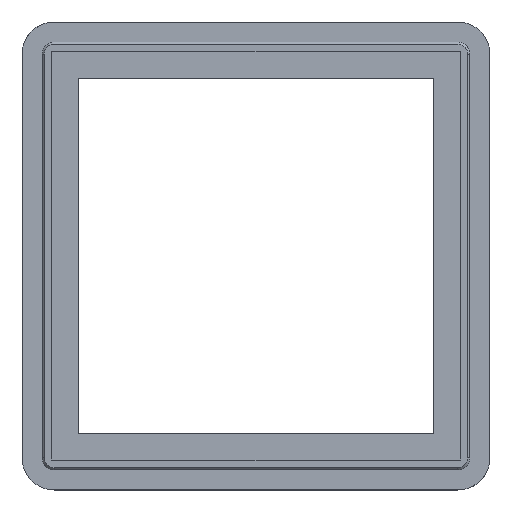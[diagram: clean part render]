
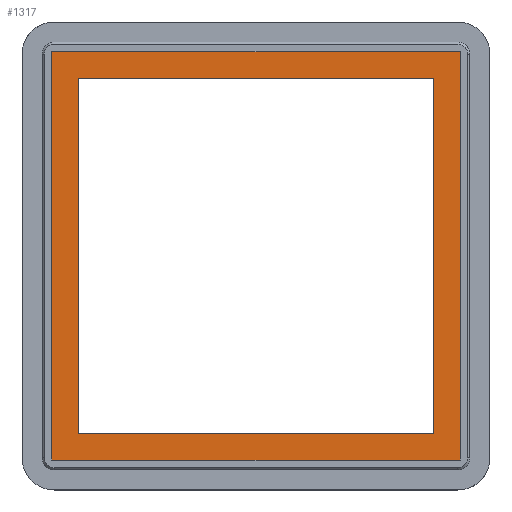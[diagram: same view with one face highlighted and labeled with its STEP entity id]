
A CAD part, top view. The second image highlights one B-rep face of the part: STEP entity #1317.
In plain terms, the highlighted free-form (B-spline) face has degree [1, 1] with [2, 2] control points.
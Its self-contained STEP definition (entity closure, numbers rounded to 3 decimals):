
#694 = VERTEX_POINT('',#695);
#695 = CARTESIAN_POINT('',(22.,-22.,8.2));
#702 = VERTEX_POINT('',#703);
#703 = CARTESIAN_POINT('',(-22.,-22.,8.2));
#708 = EDGE_CURVE('',#702,#694,#709,.T.);
#709 = B_SPLINE_CURVE_WITH_KNOTS('',1,(#710,#711),.UNSPECIFIED.,.F.,.F.,
  (2,2),(1.65,45.65),.PIECEWISE_BEZIER_KNOTS.);
#710 = CARTESIAN_POINT('',(-22.,-22.,8.2));
#711 = CARTESIAN_POINT('',(22.,-22.,8.2));
#724 = VERTEX_POINT('',#725);
#725 = CARTESIAN_POINT('',(22.,22.,8.2));
#730 = EDGE_CURVE('',#724,#694,#731,.T.);
#731 = B_SPLINE_CURVE_WITH_KNOTS('',1,(#732,#733),.UNSPECIFIED.,.F.,.F.,
  (2,2),(-45.65,-1.65),.PIECEWISE_BEZIER_KNOTS.);
#732 = CARTESIAN_POINT('',(22.,22.,8.2));
#733 = CARTESIAN_POINT('',(22.,-22.,8.2));
#746 = VERTEX_POINT('',#747);
#747 = CARTESIAN_POINT('',(-22.,22.,8.2));
#752 = EDGE_CURVE('',#746,#724,#753,.T.);
#753 = B_SPLINE_CURVE_WITH_KNOTS('',1,(#754,#755),.UNSPECIFIED.,.F.,.F.,
  (2,2),(1.65,45.65),.PIECEWISE_BEZIER_KNOTS.);
#754 = CARTESIAN_POINT('',(-22.,22.,8.2));
#755 = CARTESIAN_POINT('',(22.,22.,8.2));
#768 = EDGE_CURVE('',#746,#702,#769,.T.);
#769 = B_SPLINE_CURVE_WITH_KNOTS('',1,(#770,#771),.UNSPECIFIED.,.F.,.F.,
  (2,2),(-45.65,-1.65),.PIECEWISE_BEZIER_KNOTS.);
#770 = CARTESIAN_POINT('',(-22.,22.,8.2));
#771 = CARTESIAN_POINT('',(-22.,-22.,8.2));
#1317 = ADVANCED_FACE('',(#1318,#1348),#1354,.T.);
#1318 = FACE_BOUND('',#1319,.T.);
#1319 = EDGE_LOOP('',(#1320,#1329,#1336,#1343));
#1320 = ORIENTED_EDGE('',*,*,#1321,.F.);
#1321 = EDGE_CURVE('',#1322,#1324,#1326,.T.);
#1322 = VERTEX_POINT('',#1323);
#1323 = CARTESIAN_POINT('',(-25.3,-25.3,8.2));
#1324 = VERTEX_POINT('',#1325);
#1325 = CARTESIAN_POINT('',(-25.3,25.3,8.2));
#1326 = B_SPLINE_CURVE_WITH_KNOTS('',1,(#1327,#1328),.UNSPECIFIED.,.F.,
  .F.,(2,2),(0.,50.6),.PIECEWISE_BEZIER_KNOTS.);
#1327 = CARTESIAN_POINT('',(-25.3,-25.3,8.2));
#1328 = CARTESIAN_POINT('',(-25.3,25.3,8.2));
#1329 = ORIENTED_EDGE('',*,*,#1330,.T.);
#1330 = EDGE_CURVE('',#1322,#1331,#1333,.T.);
#1331 = VERTEX_POINT('',#1332);
#1332 = CARTESIAN_POINT('',(25.3,-25.3,8.2));
#1333 = B_SPLINE_CURVE_WITH_KNOTS('',1,(#1334,#1335),.UNSPECIFIED.,.F.,
  .F.,(2,2),(0.,50.6),.PIECEWISE_BEZIER_KNOTS.);
#1334 = CARTESIAN_POINT('',(-25.3,-25.3,8.2));
#1335 = CARTESIAN_POINT('',(25.3,-25.3,8.2));
#1336 = ORIENTED_EDGE('',*,*,#1337,.T.);
#1337 = EDGE_CURVE('',#1331,#1338,#1340,.T.);
#1338 = VERTEX_POINT('',#1339);
#1339 = CARTESIAN_POINT('',(25.3,25.3,8.2));
#1340 = B_SPLINE_CURVE_WITH_KNOTS('',1,(#1341,#1342),.UNSPECIFIED.,.F.,
  .F.,(2,2),(0.,50.6),.PIECEWISE_BEZIER_KNOTS.);
#1341 = CARTESIAN_POINT('',(25.3,-25.3,8.2));
#1342 = CARTESIAN_POINT('',(25.3,25.3,8.2));
#1343 = ORIENTED_EDGE('',*,*,#1344,.F.);
#1344 = EDGE_CURVE('',#1324,#1338,#1345,.T.);
#1345 = B_SPLINE_CURVE_WITH_KNOTS('',1,(#1346,#1347),.UNSPECIFIED.,.F.,
  .F.,(2,2),(0.,50.6),.PIECEWISE_BEZIER_KNOTS.);
#1346 = CARTESIAN_POINT('',(-25.3,25.3,8.2));
#1347 = CARTESIAN_POINT('',(25.3,25.3,8.2));
#1348 = FACE_BOUND('',#1349,.T.);
#1349 = EDGE_LOOP('',(#1350,#1351,#1352,#1353));
#1350 = ORIENTED_EDGE('',*,*,#708,.F.);
#1351 = ORIENTED_EDGE('',*,*,#768,.F.);
#1352 = ORIENTED_EDGE('',*,*,#752,.T.);
#1353 = ORIENTED_EDGE('',*,*,#730,.T.);
#1354 = B_SPLINE_SURFACE_WITH_KNOTS('',1,1,(
    (#1355,#1356)
    ,(#1357,#1358
    )),.UNSPECIFIED.,.F.,.F.,.F.,(2,2),(2,2),(0.,50.6),(0.,50.6),
  .PIECEWISE_BEZIER_KNOTS.);
#1355 = CARTESIAN_POINT('',(-25.3,-25.3,8.2));
#1356 = CARTESIAN_POINT('',(-25.3,25.3,8.2));
#1357 = CARTESIAN_POINT('',(25.3,-25.3,8.2));
#1358 = CARTESIAN_POINT('',(25.3,25.3,8.2));
